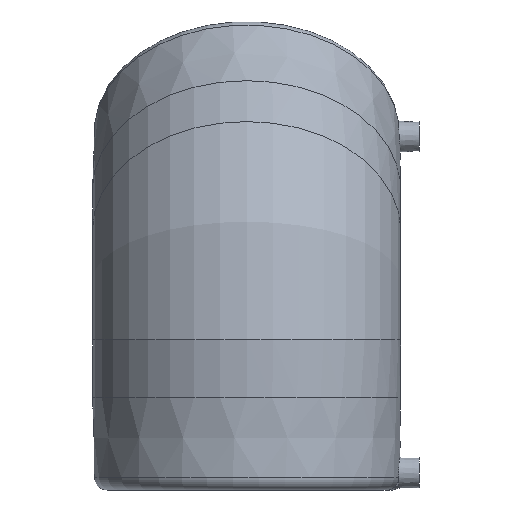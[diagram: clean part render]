
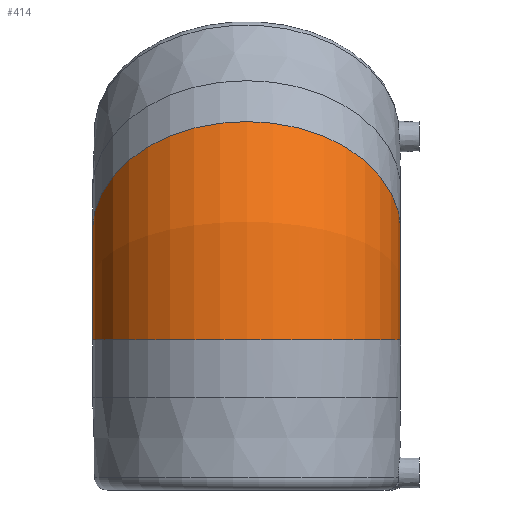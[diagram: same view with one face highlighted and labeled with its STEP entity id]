
A CAD part, left-side view. The second image highlights one B-rep face of the part: STEP entity #414.
In plain terms, the highlighted toroidal (fillet/blend) face has major radius 98.983 mm and minor radius 98.5 mm.
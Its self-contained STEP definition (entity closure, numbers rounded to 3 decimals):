
#23=TOROIDAL_SURFACE('',#483,98.983,98.5);
#110=ORIENTED_EDGE('',*,*,#178,.F.);
#111=ORIENTED_EDGE('',*,*,#177,.T.);
#177=EDGE_CURVE('',#220,#220,#248,.F.);
#178=EDGE_CURVE('',#221,#221,#249,.F.);
#220=VERTEX_POINT('',#819);
#221=VERTEX_POINT('',#822);
#248=CIRCLE('',#482,98.5);
#249=CIRCLE('',#484,98.5);
#299=EDGE_LOOP('',(#110));
#300=EDGE_LOOP('',(#111));
#360=FACE_BOUND('',#299,.T.);
#361=FACE_BOUND('',#300,.T.);
#414=ADVANCED_FACE('',(#360,#361),#23,.T.);
#482=AXIS2_PLACEMENT_3D('',#818,#590,#591);
#483=AXIS2_PLACEMENT_3D('',#820,#592,#593);
#484=AXIS2_PLACEMENT_3D('',#821,#594,#595);
#590=DIRECTION('',(0.,0.,-1.));
#591=DIRECTION('',(1.,0.,0.));
#592=DIRECTION('',(0.,1.,0.));
#593=DIRECTION('',(0.,0.,1.));
#594=DIRECTION('',(-0.707,0.,-0.707));
#595=DIRECTION('',(0.707,0.,-0.707));
#818=CARTESIAN_POINT('',(0.,0.,-41.));
#819=CARTESIAN_POINT('',(98.5,0.,-41.));
#820=CARTESIAN_POINT('',(98.983,0.,-41.));
#821=CARTESIAN_POINT('',(28.991,0.,28.991));
#822=CARTESIAN_POINT('',(98.641,0.,-40.659));
